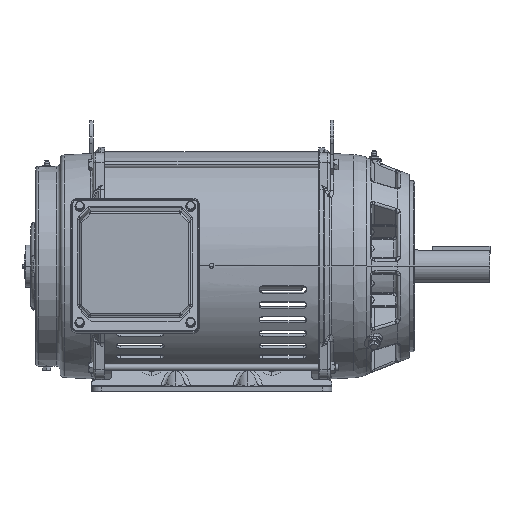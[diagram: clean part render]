
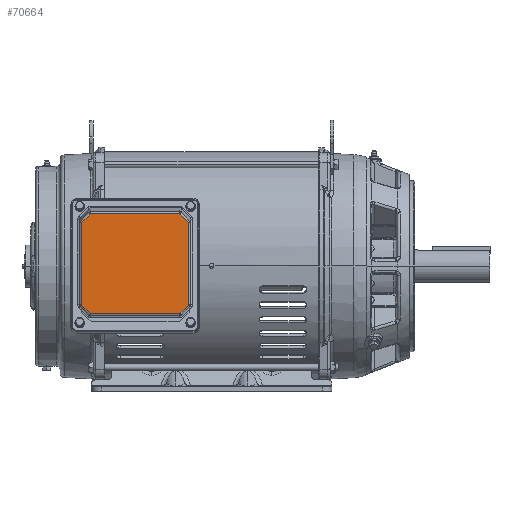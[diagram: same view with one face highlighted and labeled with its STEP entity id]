
A CAD part, top view. The second image highlights one B-rep face of the part: STEP entity #70664.
In plain terms, the highlighted planar face has unit normal (0, 0, 1).
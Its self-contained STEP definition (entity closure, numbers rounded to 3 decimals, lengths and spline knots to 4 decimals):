
#766 = VERTEX_POINT ( 'NONE', #170699 ) ;
#1795 = VECTOR ( 'NONE', #59321, 39.3701 ) ;
#2855 = CARTESIAN_POINT ( 'NONE',  ( -1.1417, -2.4916, 9.2264 ) ) ;
#3942 = LINE ( 'NONE', #113458, #169025 ) ;
#5585 = VERTEX_POINT ( 'NONE', #145005 ) ;
#7930 = ORIENTED_EDGE ( 'NONE', *, *, #108941, .T. ) ;
#11379 = LINE ( 'NONE', #176519, #84850 ) ;
#14260 = CARTESIAN_POINT ( 'NONE',  ( -6.4567, -1.9442, 9.2264 ) ) ;
#18339 = ORIENTED_EDGE ( 'NONE', *, *, #57828, .T. ) ;
#21884 = EDGE_CURVE ( 'NONE', #82705, #5585, #47333, .T. ) ;
#29182 = DIRECTION ( 'NONE',  ( 0., -1., 0. ) ) ;
#30406 = CARTESIAN_POINT ( 'NONE',  ( -1.5999, 2.6071, 9.2264 ) ) ;
#34446 = FACE_OUTER_BOUND ( 'NONE', #156138, .T. ) ;
#35481 = CARTESIAN_POINT ( 'NONE',  ( -6.4567, 2.146, 9.2264 ) ) ;
#39723 = LINE ( 'NONE', #177023, #151677 ) ;
#41542 = EDGE_CURVE ( 'NONE', #175225, #82705, #72002, .T. ) ;
#46434 = VECTOR ( 'NONE', #77125, 39.3701 ) ;
#47333 = LINE ( 'NONE', #30406, #168643 ) ;
#54135 = VECTOR ( 'NONE', #84437, 39.3701 ) ;
#56244 = ORIENTED_EDGE ( 'NONE', *, *, #62390, .T. ) ;
#57828 = EDGE_CURVE ( 'NONE', #5585, #65185, #102278, .T. ) ;
#58399 = CARTESIAN_POINT ( 'NONE',  ( -6.4906, 2.1118, 9.2264 ) ) ;
#59321 = DIRECTION ( 'NONE',  ( 0.705, 0.709, 0. ) ) ;
#60488 = DIRECTION ( 'NONE',  ( 0., 0., -1. ) ) ;
#61057 = LINE ( 'NONE', #61943, #1795 ) ;
#61943 = CARTESIAN_POINT ( 'NONE',  ( -1.1189, -1.9212, 9.2264 ) ) ;
#62390 = EDGE_CURVE ( 'NONE', #97200, #766, #39723, .T. ) ;
#65185 = VERTEX_POINT ( 'NONE', #163765 ) ;
#70664 = ADVANCED_FACE ( 'NONE', ( #34446 ), #130440, .F. ) ;
#72002 = LINE ( 'NONE', #2855, #98997 ) ;
#75871 = VERTEX_POINT ( 'NONE', #14260 ) ;
#77125 = DIRECTION ( 'NONE',  ( -1., 0., 0. ) ) ;
#80543 = ORIENTED_EDGE ( 'NONE', *, *, #128452, .T. ) ;
#82705 = VERTEX_POINT ( 'NONE', #143693 ) ;
#84265 = CARTESIAN_POINT ( 'NONE',  ( -1.1417, -1.9442, 9.2264 ) ) ;
#84437 = DIRECTION ( 'NONE',  ( -0.705, -0.709, 0. ) ) ;
#84850 = VECTOR ( 'NONE', #108310, 39.3701 ) ;
#85139 = DIRECTION ( 'NONE',  ( -0.705, 0.709, 0. ) ) ;
#95356 = DIRECTION ( 'NONE',  ( 1., 0., 0. ) ) ;
#97200 = VERTEX_POINT ( 'NONE', #115054 ) ;
#97933 = LINE ( 'NONE', #58399, #54135 ) ;
#98997 = VECTOR ( 'NONE', #128457, 39.3701 ) ;
#102278 = LINE ( 'NONE', #131853, #46434 ) ;
#104403 = CARTESIAN_POINT ( 'NONE',  ( -6.5551, -2.4916, 9.2264 ) ) ;
#108310 = DIRECTION ( 'NONE',  ( 0.705, -0.709, 0. ) ) ;
#108941 = EDGE_CURVE ( 'NONE', #75871, #97200, #11379, .T. ) ;
#109690 = EDGE_CURVE ( 'NONE', #766, #175225, #61057, .T. ) ;
#113458 = CARTESIAN_POINT ( 'NONE',  ( -6.4567, -1.9964, 9.2264 ) ) ;
#115054 = CARTESIAN_POINT ( 'NONE',  ( -6.0222, -2.3814, 9.2264 ) ) ;
#121388 = ORIENTED_EDGE ( 'NONE', *, *, #21884, .T. ) ;
#122981 = AXIS2_PLACEMENT_3D ( 'NONE', #104403, #60488, #128699 ) ;
#123887 = EDGE_CURVE ( 'NONE', #65185, #127570, #97933, .T. ) ;
#127570 = VERTEX_POINT ( 'NONE', #35481 ) ;
#128452 = EDGE_CURVE ( 'NONE', #127570, #75871, #3942, .T. ) ;
#128457 = DIRECTION ( 'NONE',  ( 0., 1., 0. ) ) ;
#128699 = DIRECTION ( 'NONE',  ( 0., -1., 0. ) ) ;
#130166 = ORIENTED_EDGE ( 'NONE', *, *, #109690, .T. ) ;
#130440 = PLANE ( 'NONE',  #122981 ) ;
#131853 = CARTESIAN_POINT ( 'NONE',  ( -6.5551, 2.5832, 9.2264 ) ) ;
#143693 = CARTESIAN_POINT ( 'NONE',  ( -1.1417, 2.146, 9.2264 ) ) ;
#145005 = CARTESIAN_POINT ( 'NONE',  ( -1.5762, 2.5832, 9.2264 ) ) ;
#149742 = ORIENTED_EDGE ( 'NONE', *, *, #123887, .T. ) ;
#151677 = VECTOR ( 'NONE', #95356, 39.3701 ) ;
#156138 = EDGE_LOOP ( 'NONE', ( #56244, #130166, #161324, #121388, #18339, #149742, #80543, #7930 ) ) ;
#161324 = ORIENTED_EDGE ( 'NONE', *, *, #41542, .T. ) ;
#163765 = CARTESIAN_POINT ( 'NONE',  ( -6.0222, 2.5832, 9.2264 ) ) ;
#168643 = VECTOR ( 'NONE', #85139, 39.3701 ) ;
#169025 = VECTOR ( 'NONE', #29182, 39.3701 ) ;
#170699 = CARTESIAN_POINT ( 'NONE',  ( -1.5762, -2.3814, 9.2264 ) ) ;
#175225 = VERTEX_POINT ( 'NONE', #84265 ) ;
#176519 = CARTESIAN_POINT ( 'NONE',  ( -5.9874, -2.4165, 9.2264 ) ) ;
#177023 = CARTESIAN_POINT ( 'NONE',  ( -6.5551, -2.3814, 9.2264 ) ) ;
